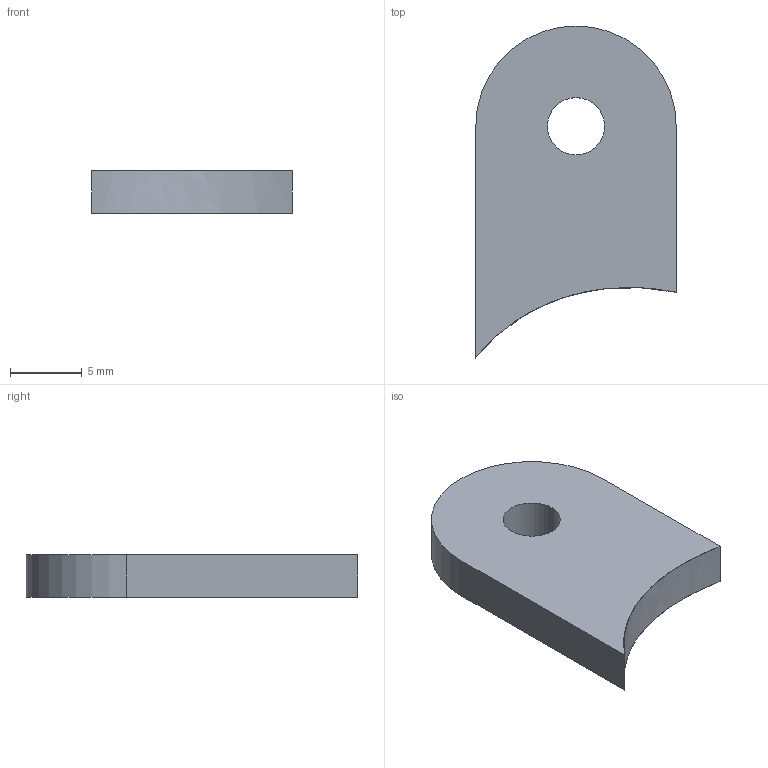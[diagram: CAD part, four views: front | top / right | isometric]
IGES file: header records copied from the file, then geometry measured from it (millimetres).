
Start section: START RECORD GO HERE.
Global section: file name: EN_09032 (Frame Bracket Bottom).igs; native system: 44HIBM CATIA IGES - CATIA Version 5 Release 19; preprocessor: CATIA Version 5 Release 19 ; author: Mathieu Jacquet; organization: MBPRO; date: 20200116.125013; units: millimetre
Bounding box: 14 x 23.17 x 3 mm (x, y, z)
Surface area: 709.2 mm2 (no closed solid volume)
Topology: 0 solids, 0 shells, 8 faces, 36 edges, 37 vertices
Faces by surface type: plane 4, revolution 3, extrusion 1
